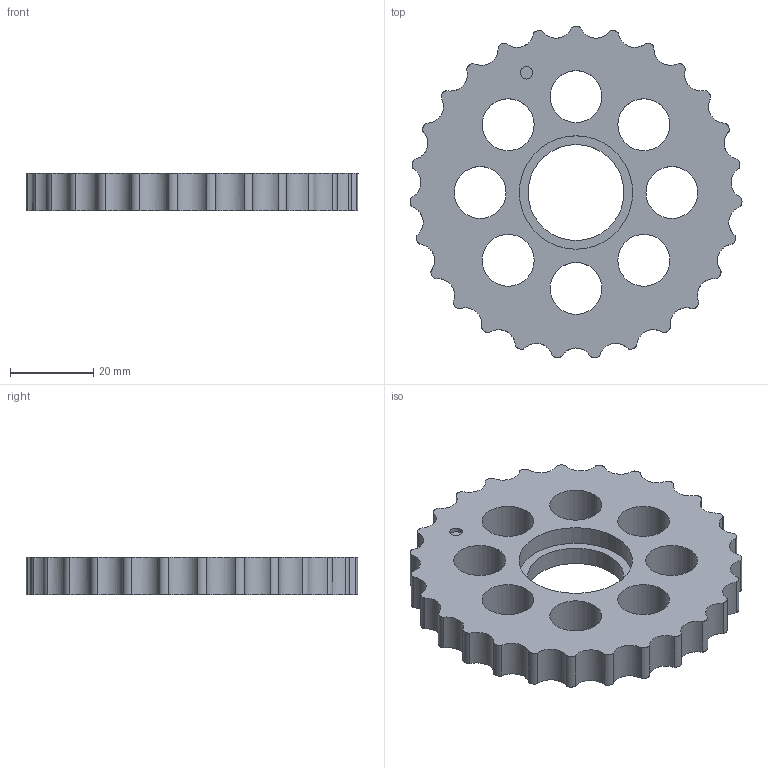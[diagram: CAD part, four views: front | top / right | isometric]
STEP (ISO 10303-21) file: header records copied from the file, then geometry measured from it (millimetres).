
FILE_DESCRIPTION (( 'STEP AP214' ), '1' );
FILE_NAME ('Joint 2 cyclo disc version 2.STEP', '2020-07-10T20:04:46', ( '' ), ( '' ), 'SwSTEP 2.0', 'SolidWorks 2016', '' );
FILE_SCHEMA (( 'AUTOMOTIVE_DESIGN' ));
Length unit declared in the file: millimetre
Products named in the file (1): Joint 2 cyclo disc version 2
Bounding box: 79.63 x 79.5 x 9 mm (x, y, z)
Volume: 28328.2 mm3; surface area: 12648 mm2
Topology: 1 solids, 1 shells, 80 faces, 228 edges, 152 vertices
Faces by surface type: bspline 54, cylinder 22, plane 4
Entity records: 3962 total; most frequent: CARTESIAN_POINT 2135, ORIENTED_EDGE 456, EDGE_CURVE 228, DIRECTION 218, VERTEX_POINT 152, B_SPLINE_CURVE_WITH_KNOTS 108, EDGE_LOOP 100, ADVANCED_FACE 80
